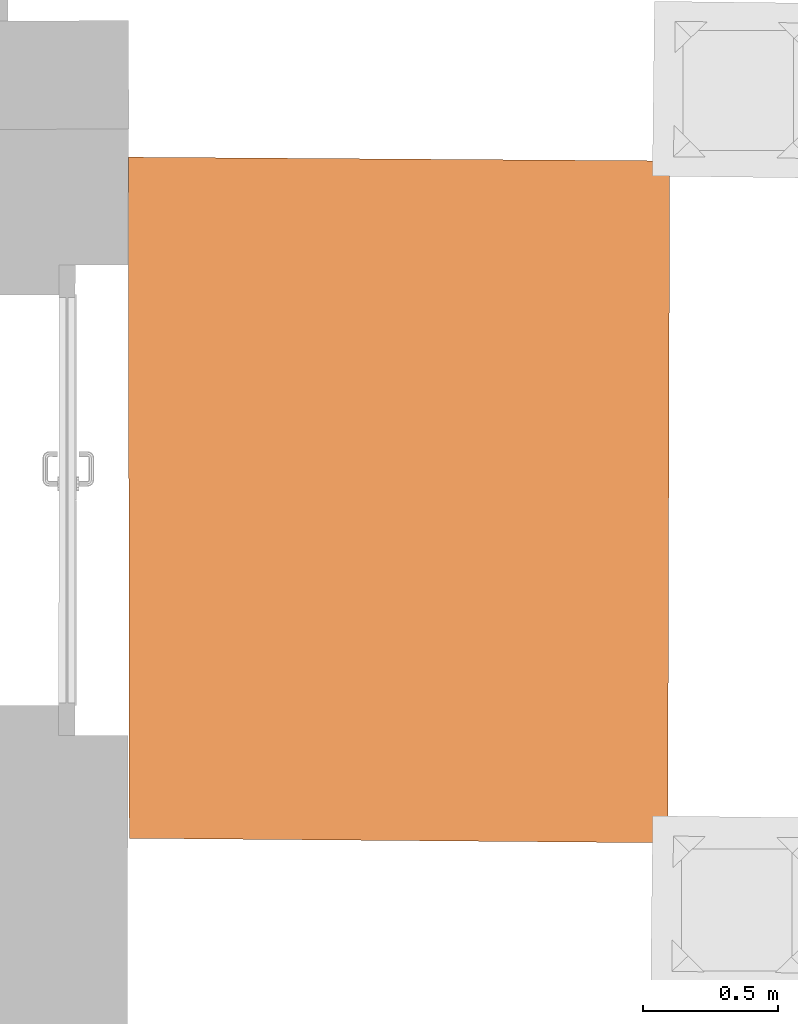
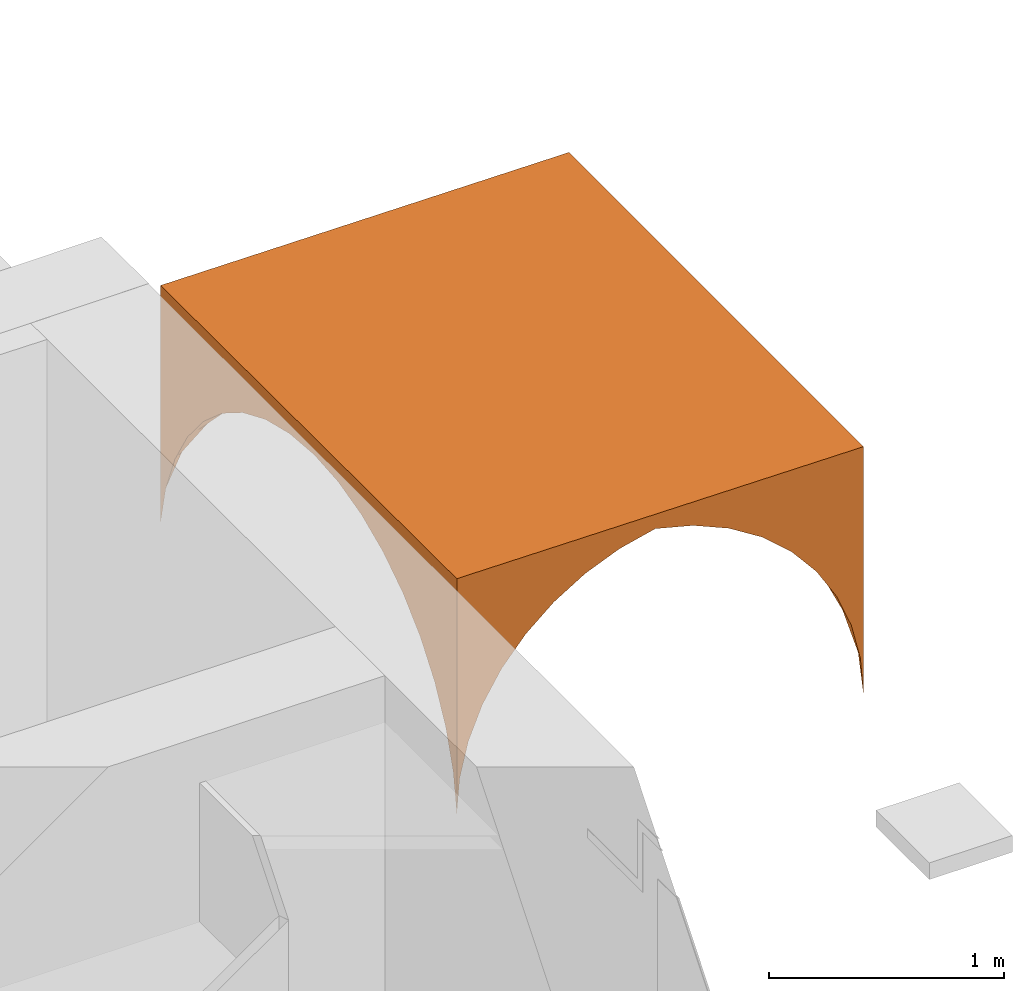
# One storey, part 151 of 158: 1 proxy.
"""IFC2X3 building model written with IfcOpenShell, lengths in metres."""

from ifc_helpers import new_model, entity, si_unit, converted_unit, derived_unit, money_unit, direction, frame, origin_with_axes, place, context, subcontext, project, spatial, faceted_brep, type_object, element, save


model = new_model("IFC2X3")

# Units and contexts
model_context = context("Model", 3, precision=1e-05, world=origin_with_axes(), true_north=direction((0.0, 1.0)))
body_context = subcontext(model_context, "Body", "Model", "MODEL_VIEW")
ifc_project = project(units=[si_unit("LENGTHUNIT", "METRE"), si_unit("AREAUNIT", "SQUARE_METRE"), si_unit("VOLUMEUNIT", "CUBIC_METRE"), converted_unit("PLANEANGLEUNIT", "DEGREE", entity("IfcPlaneAngleMeasure", 0.0174532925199), si_unit("PLANEANGLEUNIT", "RADIAN"), dimensions=[0, 0, 0, 0, 0, 0, 0]), money_unit("EUR"), converted_unit("TIMEUNIT", "Year", entity("IfcTimeMeasure", 31556926.0), si_unit("TIMEUNIT", "SECOND"), dimensions=[0, 0, 1, 0, 0, 0, 0]), si_unit("MASSUNIT", "GRAM", prefix="KILO"), si_unit("THERMODYNAMICTEMPERATUREUNIT", "DEGREE_CELSIUS"), si_unit("LUMINOUSINTENSITYUNIT", "LUMEN"), si_unit("ENERGYUNIT", "JOULE", prefix="MEGA"), derived_unit("THERMALCONDUCTANCEUNIT", [(si_unit("POWERUNIT", "WATT"), 1), (si_unit("LENGTHUNIT", "METRE"), -1), (si_unit("THERMODYNAMICTEMPERATUREUNIT", "KELVIN"), -1)]), derived_unit("SPECIFICHEATCAPACITYUNIT", [(si_unit("ENERGYUNIT", "JOULE"), 1), (si_unit("MASSUNIT", "GRAM", prefix="KILO"), -1), (si_unit("THERMODYNAMICTEMPERATUREUNIT", "KELVIN"), -1)]), derived_unit("MASSDENSITYUNIT", [(si_unit("MASSUNIT", "GRAM", prefix="KILO"), 1), (si_unit("VOLUMEUNIT", "CUBIC_METRE"), -1)])], contexts=[model_context])

# Site, building, storey
site_placement = place(None, origin_with_axes())
site = spatial("IfcSite", under=ifc_project, at=site_placement, Name="Gelände", CompositionType="ELEMENT")
building_placement = place(site_placement, origin_with_axes())
building = spatial("IfcBuilding", under=site, at=building_placement, Name="Gebäude", CompositionType="ELEMENT")
storey_placement = place(building_placement, origin_with_axes())
storey = spatial("IfcBuildingStorey", under=building, at=storey_placement, Name="ERDGESCHOSS", CompositionType="ELEMENT", Elevation=0.0)

# Proxy
building_element_proxy_type = type_object("IfcBuildingElementProxyType", Name="quickArch Kreuzgratgewölbe_1.0", PredefinedType="NOTDEFINED")
proxy_placement = place(storey_placement, frame((31.2435626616, 20.0578636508, 2.2), z_axis=(0.0, 0.0, 1.0), x_axis=(0.999998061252, 0.00196913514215, 0.0)))
element("IfcBuildingElementProxy", 1, at=proxy_placement, inside=storey, type_object=building_element_proxy_type, Name="Objekt-00221", context=body_context, shape_type="Brep", body=[
    faceted_brep([(0.874865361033, -1.65089604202, 1.29777724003), (0.874763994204, -1.8550028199, 1.34765712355), (0.874659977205, -2.0644458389, 1.36442616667), (0.874659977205, -2.0644458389, 1.45424179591), (0.875307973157, -0.759676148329, 1.45424179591), (0.875307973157, -0.759676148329, 0.222244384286), (0.875285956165, -0.804008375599, 0.427627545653), (0.875247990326, -0.880454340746, 0.62334060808), (0.875195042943, -0.987066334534, 0.804397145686), (0.875128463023, -1.12112807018, 0.966184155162), (0.875049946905, -1.27922388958, 1.10457958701), (0.874961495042, -1.45732578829, 1.21605736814), (1.70406072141, -1.82257496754, 1.35692649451), (1.8782134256, -2.04593073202, 1.37443079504), (1.8782134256, -2.04593073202, 1.45424179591), (1.53519955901, -1.60600575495, 1.30494545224), (1.37676069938, -1.40280344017, 1.2200670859), (1.23355822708, -1.21914222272, 1.10487038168), (1.10994327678, -1.06060255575, 0.962855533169), (1.00967182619, -0.932001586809, 0.798337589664), (0.935790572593, -0.837246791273, 0.61631534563), (0.890544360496, -0.779217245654, 0.422319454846)], [[[0, 1, 2, 3, 4, 5, 6, 7, 8, 9, 10, 11]], [[1, 0, 12]], [[2, 1, 13]], [[3, 2, 13, 14]], [[4, 3, 14]], [[5, 4, 14, 13, 12, 15, 16, 17, 18, 19, 20, 21]], [[6, 5, 21]], [[20, 7, 6]], [[8, 7, 19]], [[18, 9, 8]], [[10, 9, 17]], [[11, 10, 16]], [[0, 11, 15]], [[0, 15, 12]], [[1, 12, 13]], [[15, 11, 16]], [[10, 17, 16]], [[9, 18, 17]], [[8, 19, 18]], [[7, 20, 19]], [[20, 6, 21]]]),
    faceted_brep([(0.874059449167, -3.27363669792, 0.232173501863), (0.874074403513, -3.24352543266, 0.432339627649), (0.889314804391, -3.25498508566, 0.43052439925), (0.874059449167, -3.27363669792, 1.45424179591), (0.874659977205, -2.0644458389, 1.45424179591), (0.874659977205, -2.0644458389, 1.36442616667), (0.87455980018, -2.266156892, 1.34752032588), (0.874462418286, -2.46223982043, 1.29727450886), (0.874370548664, -2.64722353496, 1.21509067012), (0.874286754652, -2.8159466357, 1.10326189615), (0.874213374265, -2.96370142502, 0.964908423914), (0.874152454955, -3.08636526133, 0.80389058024), (0.874105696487, -3.18051558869, 0.624701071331), (0.934617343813, -3.19959696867, 0.622848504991), (1.0085905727, -3.10915528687, 0.803302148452), (1.10898685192, -2.98640806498, 0.966402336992), (1.23275569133, -2.83508491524, 1.10719335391), (1.37613643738, -2.65978371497, 1.22139733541), (1.53477253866, -2.46583090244, 1.3055442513), (1.70384391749, -2.25911963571, 1.35707734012), (1.8782134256, -2.04593073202, 1.37443079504), (1.8782134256, -2.04593073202, 1.45424179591)], [[[0, 1, 2]], [[1, 0, 3, 4, 5, 6, 7, 8, 9, 10, 11, 12]], [[2, 1, 12]], [[3, 0, 2, 13, 14, 15, 16, 17, 18, 19, 20, 21]], [[4, 3, 21]], [[5, 4, 21, 20]], [[6, 5, 19]], [[7, 6, 18]], [[8, 7, 17]], [[9, 8, 16]], [[10, 9, 15]], [[11, 10, 14]], [[12, 11, 13]], [[12, 13, 2]], [[13, 11, 14]], [[14, 10, 15]], [[15, 9, 16]], [[8, 17, 16]], [[17, 7, 18]], [[18, 6, 19]], [[19, 5, 20]]]),
    faceted_brep([(0.930240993, -3.27422445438, 0.589320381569), (0.888190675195, -3.27378453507, 0.412943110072), (0.934617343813, -3.19959696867, 0.622848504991), (0.874059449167, -3.27363669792, 0.232173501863), (0.999188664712, -3.27494576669, 0.757019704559), (1.09335840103, -3.27593094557, 0.911966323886), (1.21046206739, -3.27715605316, 1.05039534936), (1.347654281, -3.27859132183, 1.16894323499), (1.50160154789, -3.28020187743, 1.26472950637), (1.66856326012, -3.28194858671, 1.33542675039), (1.844482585, -3.28378900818, 1.37931716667), (1.844482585, -3.28378900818, 1.45424179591), (0.874059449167, -3.27363669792, 1.45424179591), (0.889314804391, -3.25498508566, 0.43052439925), (1.0085905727, -3.10915528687, 0.803302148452), (1.10898685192, -2.98640806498, 0.966402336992), (1.23275569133, -2.83508491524, 1.10719335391), (1.37613643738, -2.65978371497, 1.22139733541), (1.53477253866, -2.46583090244, 1.3055442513), (1.70384391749, -2.25911963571, 1.35707734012), (1.8782134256, -2.04593073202, 1.37443079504), (1.8782134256, -2.04593073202, 1.45424179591)], [[[0, 1, 2]], [[3, 1, 0, 4, 5, 6, 7, 8, 9, 10, 11, 12]], [[1, 13, 2]], [[0, 2, 14]], [[1, 3, 13]], [[4, 0, 14]], [[5, 4, 15]], [[6, 5, 16]], [[7, 6, 17]], [[8, 7, 18]], [[9, 8, 19]], [[10, 9, 20]], [[11, 10, 20, 21]], [[12, 11, 21]], [[3, 12, 21, 20, 19, 18, 17, 16, 15, 14, 2, 13]], [[4, 14, 15]], [[5, 15, 16]], [[6, 16, 17]], [[7, 17, 18]], [[8, 18, 19]], [[9, 19, 20]]]),
    faceted_brep([(2.3655882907, -3.28924067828, 1.15607613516), (2.20420621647, -3.28755234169, 1.25730553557), (2.36993626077, -2.67018058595, 1.21316668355), (2.02909618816, -3.28572038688, 1.33232245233), (2.50934920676, -3.29074466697, 1.03107632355), (2.63202085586, -3.29202802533, 0.885321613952), (2.7306438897, -3.29305979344, 0.722328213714), (2.8028391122, -3.29381508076, 0.546028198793), (2.84686487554, -3.29427566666, 0.360674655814), (2.86165909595, -3.29443043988, 0.170739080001), (2.86165909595, -3.29443043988, 1.45424179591), (1.844482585, -3.28378900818, 1.45424179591), (1.844482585, -3.28378900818, 1.37931716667), (2.21457165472, -2.47294278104, 1.30183930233), (2.5103601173, -2.84845087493, 1.09282042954), (2.63157651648, -3.00233699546, 0.944457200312), (2.72990235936, -3.12716319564, 0.772584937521), (2.80235006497, -3.21913669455, 0.582425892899), (2.84671834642, -3.27546292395, 0.379757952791), (2.04898697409, -2.2627304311, 1.35614401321), (1.8782134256, -2.04593073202, 1.37443079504), (1.8782134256, -2.04593073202, 1.45424179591)], [[[0, 1, 2]], [[3, 1, 0, 4, 5, 6, 7, 8, 9, 10, 11, 12]], [[2, 1, 13]], [[0, 2, 14]], [[1, 3, 13]], [[4, 0, 14]], [[5, 4, 15]], [[6, 5, 16]], [[7, 6, 17]], [[7, 18, 8]], [[9, 8, 18]], [[19, 20, 21, 10, 9, 18, 17, 16, 15, 14, 2, 13]], [[21, 11, 10]], [[12, 11, 21, 20]], [[3, 12, 19]], [[3, 19, 13]], [[15, 4, 14]], [[5, 15, 16]], [[17, 6, 16]], [[18, 7, 17]], [[19, 12, 20]]]),
    faceted_brep([(2.5103601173, -2.84845087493, 1.09282042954), (2.63157651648, -3.00233699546, 0.944457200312), (2.72990235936, -3.12716319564, 0.772584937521), (2.80235006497, -3.21913669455, 0.582425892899), (2.84671834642, -3.27546292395, 0.379757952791), (2.86165909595, -3.29443043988, 0.170739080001), (2.86165909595, -3.29443043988, 1.45424179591), (1.8782134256, -2.04593073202, 1.45424179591), (1.8782134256, -2.04593073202, 1.37443079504), (2.04898697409, -2.2627304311, 1.35614401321), (2.21457165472, -2.47294278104, 1.30183930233), (2.36993626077, -2.67018058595, 1.21316668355), (2.86319463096, -2.96591467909, 0.950614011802), (2.86258568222, -3.09619452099, 0.779185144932), (2.86211879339, -3.19608174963, 0.588440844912), (2.86180702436, -3.26278230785, 0.38371663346), (2.86392860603, -2.80888642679, 1.09793221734), (2.8647670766, -2.62950217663, 1.21701895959), (2.86568658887, -2.43277968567, 1.30454313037), (2.86666142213, -2.22422169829, 1.3580564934), (2.86766430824, -2.00966202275, 1.37606216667), (2.86766430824, -2.00966202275, 1.45424179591)], [[[0, 1, 2, 3, 4, 5, 6, 7, 8, 9, 10, 11]], [[12, 1, 0]], [[1, 13, 2]], [[14, 3, 2]], [[15, 4, 3]], [[15, 5, 4]], [[5, 15, 14, 13, 12, 16, 17, 18, 19, 20, 21, 6]], [[7, 6, 21]], [[8, 7, 21, 20]], [[9, 8, 19]], [[10, 9, 18]], [[11, 10, 17]], [[0, 11, 16]], [[13, 1, 12]], [[12, 0, 16]], [[14, 2, 13]], [[14, 15, 3]], [[16, 11, 17]], [[17, 10, 18]], [[18, 9, 19]], [[19, 8, 20]]]),
    faceted_brep([(1.8782134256, -2.04593073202, 1.45424179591), (1.8782134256, -2.04593073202, 1.37443079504), (2.86766430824, -2.00966202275, 1.37606216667), (2.86766430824, -2.00966202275, 1.45424179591), (2.87342357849, -0.777510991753, 1.45424179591), (2.87342357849, -0.777510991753, 0.147896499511), (2.85830410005, -0.796781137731, 0.360881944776), (2.81340506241, -0.854006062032, 0.567395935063), (2.74009070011, -0.947447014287, 0.761163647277), (2.64058863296, -1.07426483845, 0.936297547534), (2.51792218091, -1.23060623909, 1.0874762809), (2.37581850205, -1.41172086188, 1.21010635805), (2.21859534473, -1.61210563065, 1.30046172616), (2.05102985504, -1.8256719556, 1.35579698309), (2.86866235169, -1.79613839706, 1.35741992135), (2.86963019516, -1.58907582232, 1.30205728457), (2.87053855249, -1.39473984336, 1.2116494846), (2.87135993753, -1.21901090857, 1.08893218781), (2.87206949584, -1.06720643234, 0.937618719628), (2.87264575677, -0.943919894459, 0.762287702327), (2.87307128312, -0.852881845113, 0.568244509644), (2.87333319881, -0.796847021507, 0.361360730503)], [[[0, 1, 2, 3]], [[1, 0, 4, 5, 6, 7, 8, 9, 10, 11, 12, 13]], [[1, 13, 2]], [[2, 14, 15, 16, 17, 18, 19, 20, 21, 5, 4, 3]], [[0, 3, 4]], [[21, 6, 5]], [[7, 6, 20]], [[8, 7, 19]], [[9, 8, 18]], [[10, 9, 17]], [[11, 10, 16]], [[12, 11, 15]], [[13, 12, 14]], [[13, 14, 2]], [[14, 12, 15]], [[11, 16, 15]], [[16, 10, 17]], [[9, 18, 17]], [[18, 8, 19]], [[7, 20, 19]], [[6, 21, 20]]]),
    faceted_brep([(1.8782134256, -2.04593073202, 1.37443079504), (2.04340430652, -0.770102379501, 1.32688832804), (2.05102985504, -1.8256719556, 1.35579698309), (1.85835650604, -0.768450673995, 1.37755816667), (2.21854048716, -0.771665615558, 1.24854470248), (2.21859534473, -1.61210563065, 1.30046172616), (2.37581850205, -1.41172086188, 1.21010635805), (2.51792218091, -1.23060623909, 1.0874762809), (2.64058863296, -1.07426483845, 0.936297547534), (2.74009070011, -0.947447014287, 0.761163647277), (2.81340506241, -0.854006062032, 0.567395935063), (2.85830410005, -0.796781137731, 0.360881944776), (2.87342357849, -0.777510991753, 0.147896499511), (2.87342357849, -0.777510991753, 1.45424179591), (1.8782134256, -2.04593073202, 1.45424179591), (1.85835650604, -0.768450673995, 1.45424179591), (2.85872648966, -0.777379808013, 0.339199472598), (2.81498019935, -0.776989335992, 0.526012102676), (2.74321153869, -0.776348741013, 0.703949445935), (2.64510509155, -0.775473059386, 0.868834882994), (2.52296365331, -0.774382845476, 1.01679815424), (2.37965417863, -0.773103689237, 1.1443662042)], [[[0, 1, 2]], [[1, 0, 3]], [[1, 4, 2]], [[0, 2, 5, 6, 7, 8, 9, 10, 11, 12, 13, 14]], [[3, 0, 14, 15]], [[4, 1, 3, 15, 13, 12, 16, 17, 18, 19, 20, 21]], [[5, 2, 4]], [[5, 21, 6]], [[6, 20, 7]], [[8, 7, 19]], [[18, 9, 8]], [[9, 17, 10]], [[11, 10, 16]], [[12, 11, 16]], [[15, 14, 13]], [[17, 16, 10]], [[9, 18, 17]], [[8, 19, 18]], [[7, 20, 19]], [[20, 6, 21]], [[21, 5, 4]]]),
    faceted_brep([(0.890544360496, -0.779217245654, 0.422319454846), (0.889642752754, -0.759804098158, 0.404866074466), (0.932295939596, -0.760184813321, 0.583014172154), (0.875307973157, -0.759676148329, 0.222244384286), (0.875307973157, -0.759676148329, 1.45424179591), (1.85835650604, -0.768450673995, 1.45424179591), (1.85835650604, -0.768450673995, 1.37755816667), (1.68039008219, -0.766862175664, 1.33418060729), (1.51137152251, -0.765353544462, 1.26356450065), (1.35544119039, -0.763961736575, 1.1674396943), (1.21641883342, -0.762720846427, 1.0481609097), (1.09771001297, -0.761661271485, 0.908650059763), (1.00222267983, -0.760808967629, 0.752324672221), (0.935790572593, -0.837246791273, 0.61631534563), (1.00967182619, -0.932001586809, 0.798337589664), (1.10994327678, -1.06060255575, 0.962855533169), (1.23355822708, -1.21914222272, 1.10487038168), (1.37676069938, -1.40280344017, 1.2200670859), (1.53519955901, -1.60600575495, 1.30494545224), (1.70406072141, -1.82257496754, 1.35692649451), (1.8782134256, -2.04593073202, 1.37443079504), (1.8782134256, -2.04593073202, 1.45424179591)], [[[0, 1, 2]], [[1, 0, 3]], [[1, 3, 4, 5, 6, 7, 8, 9, 10, 11, 12, 2]], [[13, 0, 2]], [[0, 13, 14, 15, 16, 17, 18, 19, 20, 21, 4, 3]], [[4, 21, 5]], [[21, 20, 6, 5]], [[6, 19, 7]], [[18, 8, 7]], [[17, 9, 8]], [[10, 9, 16]], [[15, 11, 10]], [[14, 12, 11]], [[12, 13, 2]], [[13, 12, 14]], [[11, 15, 14]], [[15, 10, 16]], [[17, 16, 9]], [[18, 17, 8]], [[19, 18, 7]], [[20, 19, 6]]]),
])

save(model, "model.ifc")
